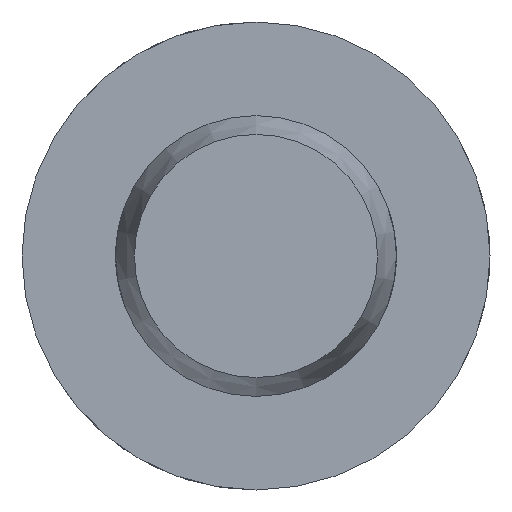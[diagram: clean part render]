
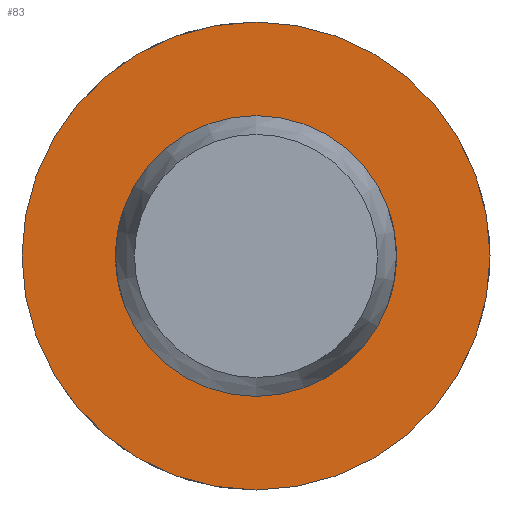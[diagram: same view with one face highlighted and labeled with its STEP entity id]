
A CAD part, left-side view. The second image highlights one B-rep face of the part: STEP entity #83.
In plain terms, the highlighted planar face has unit normal (-1, 0, 0).
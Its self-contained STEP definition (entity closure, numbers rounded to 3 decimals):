
#83 = ADVANCED_FACE( '', ( #128, #129 ), #130, .F. );
#128 = FACE_OUTER_BOUND( '', #205, .T. );
#129 = FACE_BOUND( '', #206, .T. );
#130 = PLANE( '', #207 );
#205 = EDGE_LOOP( '', ( #320 ) );
#206 = EDGE_LOOP( '', ( #321 ) );
#207 = AXIS2_PLACEMENT_3D( '', #322, #323, #324 );
#320 = ORIENTED_EDGE( '', *, *, #484, .F. );
#321 = ORIENTED_EDGE( '', *, *, #474, .T. );
#322 = CARTESIAN_POINT( '', ( 80.6, 6., 0. ) );
#323 = DIRECTION( '', ( 1., 0., 0. ) );
#324 = DIRECTION( '', ( 0., 0., -1. ) );
#474 = EDGE_CURVE( '', #545, #545, #546, .T. );
#484 = EDGE_CURVE( '', #563, #563, #564, .T. );
#545 = VERTEX_POINT( '', #734 );
#546 = CIRCLE( '', #735, 6. );
#563 = VERTEX_POINT( '', #903 );
#564 = CIRCLE( '', #904, 10. );
#734 = CARTESIAN_POINT( '', ( 80.6, 0., -6. ) );
#735 = AXIS2_PLACEMENT_3D( '', #965, #966, #967 );
#903 = CARTESIAN_POINT( '', ( 80.6, 0., -10. ) );
#904 = AXIS2_PLACEMENT_3D( '', #986, #987, #988 );
#965 = CARTESIAN_POINT( '', ( 80.6, 0., 0. ) );
#966 = DIRECTION( '', ( 1., 0., 0. ) );
#967 = DIRECTION( '', ( 0., 0., -1. ) );
#986 = CARTESIAN_POINT( '', ( 80.6, 0., 0. ) );
#987 = DIRECTION( '', ( 1., 0., 0. ) );
#988 = DIRECTION( '', ( 0., 0., -1. ) );
